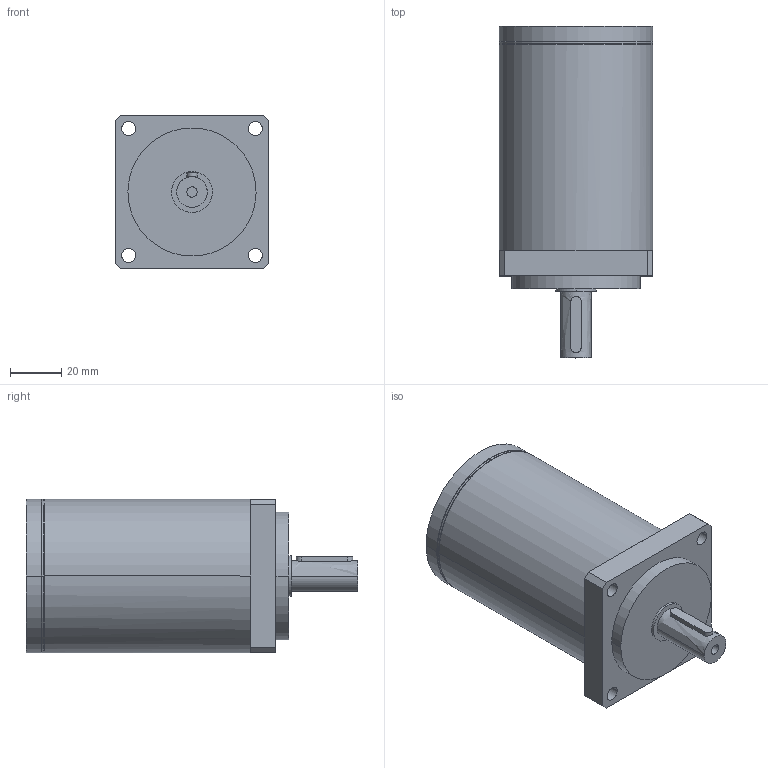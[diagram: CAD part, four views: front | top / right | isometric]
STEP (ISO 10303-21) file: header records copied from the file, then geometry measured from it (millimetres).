
FILE_DESCRIPTION(/* description */ (''),/* implementation_level */ '2;1');
FILE_NAME(/* name */ 'G2460S~1',/* time_stamp */ '2018-10-16T10:31:01+08:00',/* author */ (''),/* organization */ (''),/* preprocessor_version */ 'ST-DEVELOPER v15',/* originating_system */ '',/* authorisation */ '');
FILE_SCHEMA (('AUTOMOTIVE_DESIGN'));
Length unit declared in the file: millimetre
Products named in the file (1): Document
Bounding box: 60 x 129.5 x 60 mm (x, y, z)
Volume: 296099.3 mm3; surface area: 28622.9 mm2
Topology: 1 solids, 1 shells, 53 faces, 120 edges, 74 vertices
Faces by surface type: bspline 36, plane 17
Entity records: 1891 total; most frequent: CARTESIAN_POINT 1147, ORIENTED_EDGE 240, EDGE_CURVE 120, VERTEX_POINT 74, EDGE_LOOP 66, ADVANCED_FACE 53, FACE_OUTER_BOUND 53, B_SPLINE_CURVE_WITH_KNOTS 41
